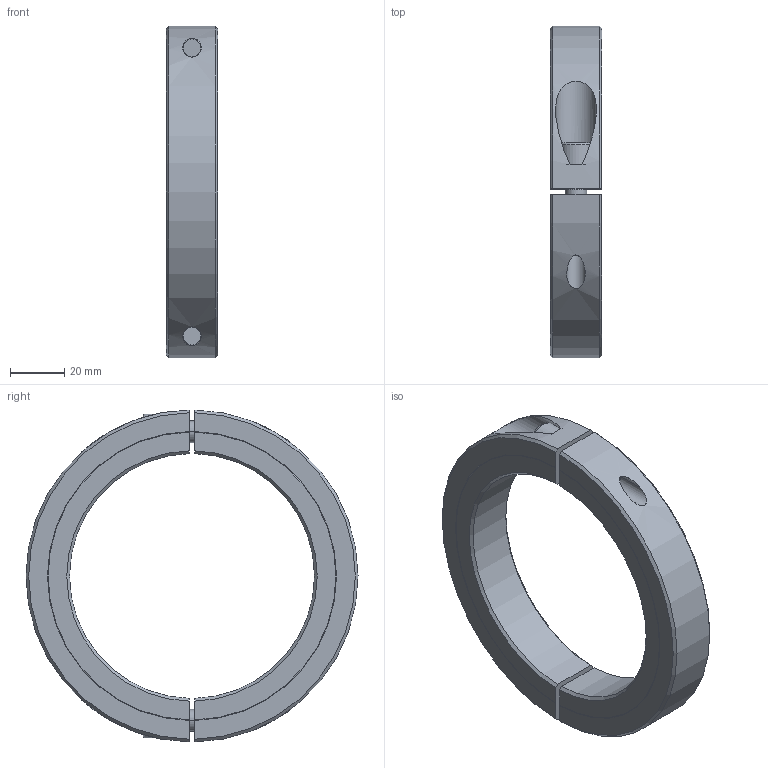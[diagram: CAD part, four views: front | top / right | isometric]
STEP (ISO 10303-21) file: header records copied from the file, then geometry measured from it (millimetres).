
FILE_DESCRIPTION((''),'2;1');
FILE_NAME('131-000-0090_ASM','2013-12-20T',('Brieden'),('brieden'),'PRO/ENGINEER BY PARAMETRIC TECHNOLOGY CORPORATION, 2005030','PRO/ENGINEER BY PARAMETRIC TECHNOLOGY CORPORATION, 2005030','');
FILE_SCHEMA(('AUTOMOTIVE_DESIGN_CC2 { 1 2 10303 214 -1 1 5 2 }'));
Length unit declared in the file: millimetre
Products named in the file (4): 131-000-0090-DB_PRT; 131-000-0090-TH_PRT; D912-M8X30_PRT; 131-000-0090_ASM
Assembly tree (4 placements, depth 2):
  131-000-0090_ASM
    131-000-0090-DB_PRT
    131-000-0090-TH_PRT
    D912-M8X30_PRT  x2
Bounding box: 19 x 122 x 121.98 mm (x, y, z)
Volume: 94354.3 mm3; surface area: 28774.9 mm2
Topology: 4 solids, 4 shells, 94 faces, 214 edges, 136 vertices
Faces by surface type: plane 34, cylinder 26, cone 20, torus 14
Entity records: 2364 total; most frequent: CARTESIAN_POINT 663, DIRECTION 348, ORIENTED_EDGE 312, EDGE_CURVE 156, AXIS2_PLACEMENT_3D 143, VERTEX_POINT 100, EDGE_LOOP 80, CIRCLE 68
